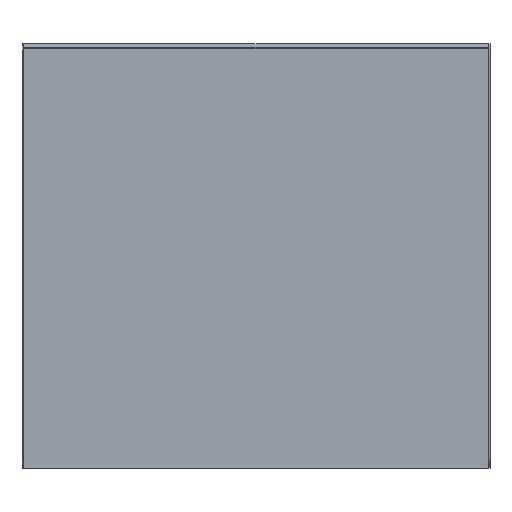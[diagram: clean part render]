
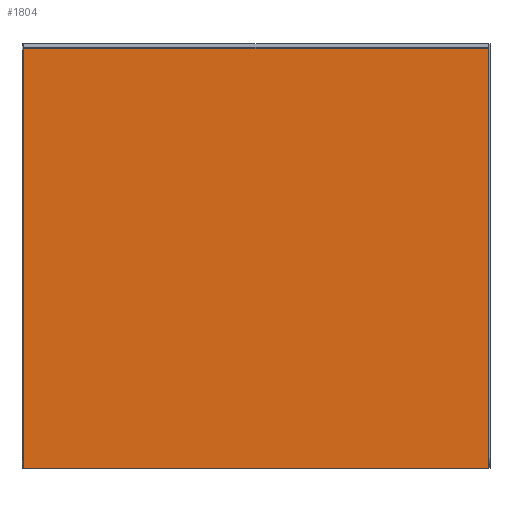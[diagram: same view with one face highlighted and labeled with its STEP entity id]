
A CAD part, front view. The second image highlights one B-rep face of the part: STEP entity #1804.
In plain terms, the highlighted planar face has unit normal (0, -1, 0).
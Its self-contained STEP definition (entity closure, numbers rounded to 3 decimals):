
#8 = VECTOR ( 'NONE', #1147, 1000. ) ;
#50 = EDGE_LOOP ( 'NONE', ( #980, #1770, #420, #755 ) ) ;
#209 = EDGE_CURVE ( 'NONE', #1374, #576, #1226, .T. ) ;
#243 = LINE ( 'NONE', #601, #8 ) ;
#290 = CARTESIAN_POINT ( 'NONE',  ( 547., -15., -497. ) ) ;
#373 = DIRECTION ( 'NONE',  ( 0., 0., -1. ) ) ;
#411 = EDGE_CURVE ( 'NONE', #576, #1413, #977, .T. ) ;
#416 = DIRECTION ( 'NONE',  ( -1., 0., 0. ) ) ;
#420 = ORIENTED_EDGE ( 'NONE', *, *, #1326, .F. ) ;
#513 = CARTESIAN_POINT ( 'NONE',  ( 547., -15., 497. ) ) ;
#523 = VERTEX_POINT ( 'NONE', #1323 ) ;
#533 = AXIS2_PLACEMENT_3D ( 'NONE', #587, #1158, #1022 ) ;
#576 = VERTEX_POINT ( 'NONE', #290 ) ;
#587 = CARTESIAN_POINT ( 'NONE',  ( 0., -15., 0. ) ) ;
#601 = CARTESIAN_POINT ( 'NONE',  ( -547., -15., 497. ) ) ;
#755 = ORIENTED_EDGE ( 'NONE', *, *, #411, .F. ) ;
#977 = LINE ( 'NONE', #1113, #1373 ) ;
#978 = VECTOR ( 'NONE', #1129, 1000. ) ;
#980 = ORIENTED_EDGE ( 'NONE', *, *, #209, .F. ) ;
#988 = FACE_OUTER_BOUND ( 'NONE', #50, .T. ) ;
#1022 = DIRECTION ( 'NONE',  ( 0., 0., -1. ) ) ;
#1033 = CARTESIAN_POINT ( 'NONE',  ( 547., -15., 497. ) ) ;
#1113 = CARTESIAN_POINT ( 'NONE',  ( -547., -15., -497. ) ) ;
#1129 = DIRECTION ( 'NONE',  ( 0., 0., 1. ) ) ;
#1137 = CARTESIAN_POINT ( 'NONE',  ( -547., -15., 497. ) ) ;
#1147 = DIRECTION ( 'NONE',  ( 1., 0., 0. ) ) ;
#1158 = DIRECTION ( 'NONE',  ( 0., -1., 0. ) ) ;
#1226 = LINE ( 'NONE', #513, #1554 ) ;
#1281 = EDGE_CURVE ( 'NONE', #523, #1374, #243, .T. ) ;
#1323 = CARTESIAN_POINT ( 'NONE',  ( -547., -15., 497. ) ) ;
#1326 = EDGE_CURVE ( 'NONE', #1413, #523, #1459, .T. ) ;
#1373 = VECTOR ( 'NONE', #416, 1000. ) ;
#1374 = VERTEX_POINT ( 'NONE', #1033 ) ;
#1413 = VERTEX_POINT ( 'NONE', #1634 ) ;
#1459 = LINE ( 'NONE', #1137, #978 ) ;
#1554 = VECTOR ( 'NONE', #373, 1000. ) ;
#1572 = PLANE ( 'NONE',  #533 ) ;
#1634 = CARTESIAN_POINT ( 'NONE',  ( -547., -15., -497. ) ) ;
#1770 = ORIENTED_EDGE ( 'NONE', *, *, #1281, .F. ) ;
#1804 = ADVANCED_FACE ( 'NONE', ( #988 ), #1572, .T. ) ;
